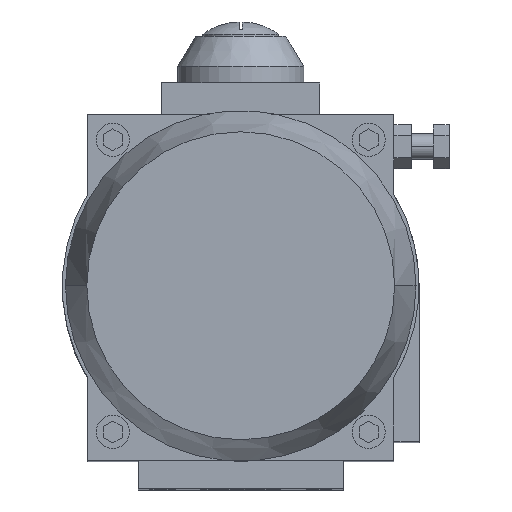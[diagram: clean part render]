
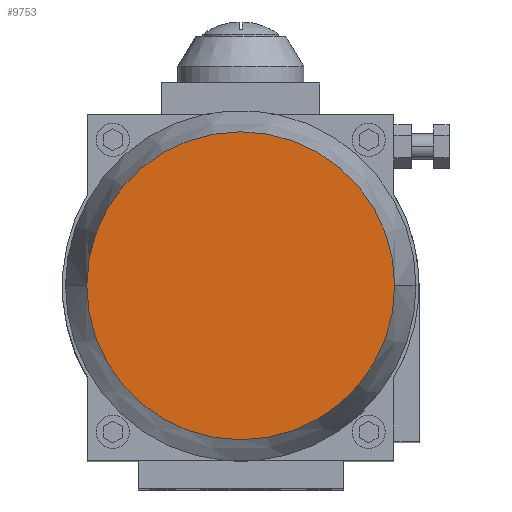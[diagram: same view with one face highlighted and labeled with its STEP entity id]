
A CAD part, top view. The second image highlights one B-rep face of the part: STEP entity #9753.
In plain terms, the highlighted planar face has unit normal (0, 0, 1).
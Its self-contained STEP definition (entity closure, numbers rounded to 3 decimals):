
#8774=CARTESIAN_POINT('',(0.,0.,269.));
#8775=DIRECTION('',(0.,0.,-1.));
#8776=DIRECTION('',(-1.,0.,0.));
#8777=AXIS2_PLACEMENT_3D('',#8774,#8775,#8776);
#8779=CARTESIAN_POINT('',(0.,0.,269.));
#8780=DIRECTION('',(0.,0.,-1.));
#8781=DIRECTION('',(1.,0.,0.));
#8782=AXIS2_PLACEMENT_3D('',#8779,#8780,#8781);
#9160=CARTESIAN_POINT('',(-97.5,0.,269.));
#9161=CARTESIAN_POINT('',(97.5,0.,269.));
#9162=VERTEX_POINT('',#9160);
#9163=VERTEX_POINT('',#9161);
#9744=CARTESIAN_POINT('',(0.,0.,269.));
#9745=DIRECTION('',(0.,0.,1.));
#9746=DIRECTION('',(1.,0.,0.));
#9747=AXIS2_PLACEMENT_3D('',#9744,#9745,#9746);
#9748=PLANE('',#9747);
#9749=ORIENTED_EDGE('',*,*,#9734,.T.);
#9750=ORIENTED_EDGE('',*,*,#9485,.T.);
#9751=EDGE_LOOP('',(#9749,#9750));
#9752=FACE_OUTER_BOUND('',#9751,.F.);
#9753=ADVANCED_FACE('',(#9752),#9748,.T.);
#8778=CIRCLE('',#8777,97.5);
#8783=CIRCLE('',#8782,97.5);
#9485=EDGE_CURVE('',#9163,#9162,#8783,.T.);
#9734=EDGE_CURVE('',#9162,#9163,#8778,.T.);
